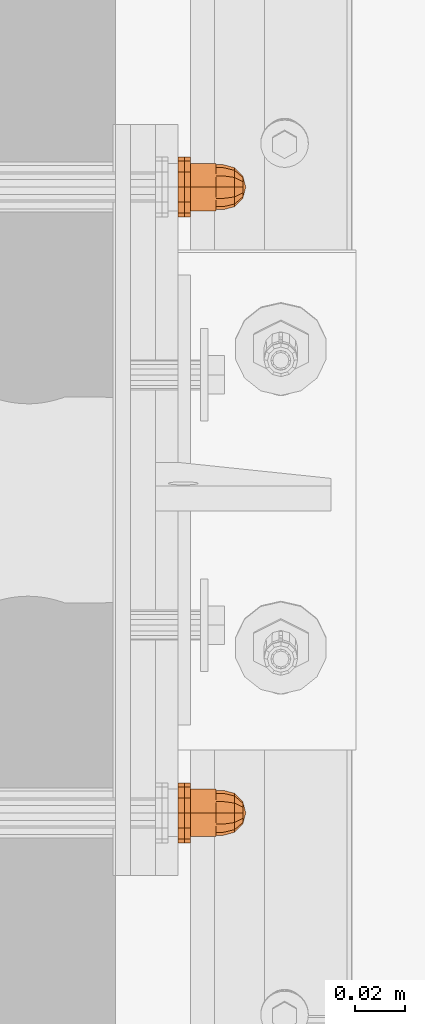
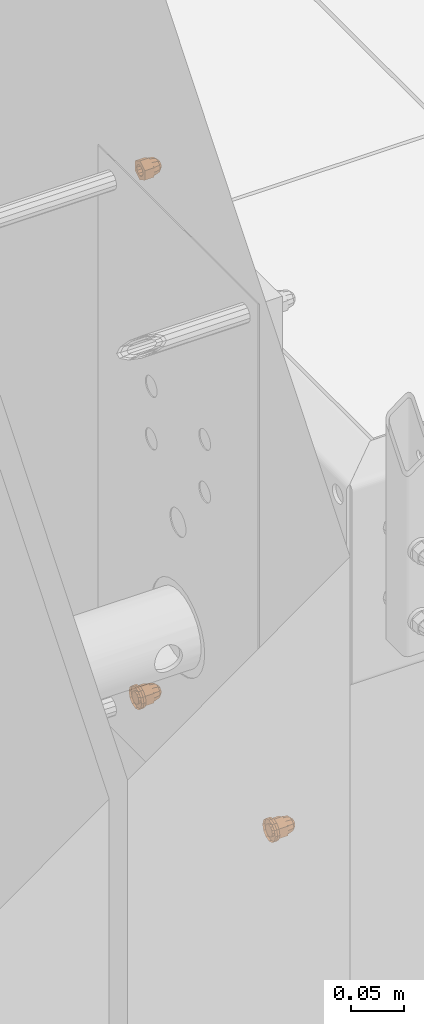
# One storey, part 115 of 162: 7 proxies.
"""IFC2X3 building model written with IfcOpenShell, lengths in millimetres."""

import ifcopenshell
import ifcopenshell.guid

model = None  # the IFC model being written
_history = None  # IfcOwnerHistory: only IFC2X3 demands one
_inside = {}  # id of a spatial element -> (the spatial element, [elements in it])
_under = {}  # id of a project, library or spatial element -> (it, [spatial elements below it])
_declared = {}  # id of a project -> (the project, [libraries it declares])
_typed = {}  # id of a type object -> (the type object, [elements of that type])
_made_of = {}  # id of a material, layer set ... -> (it, [elements and type objects made of it])


def new_model(schema):
    """Start an empty IFC model of exactly this schema.

    Asked for "IFC4X3", IfcOpenShell would pick the latest addendum, in which some entities
    have other attributes; the version numbers below select the first issue.
    IFC2X3 requires an IfcOwnerHistory on every rooted entity: one is made here for all.
    """
    global model, _history
    if schema == "IFC4X3":
        model = ifcopenshell.file(schema_version=(4, 3, 0, 0))
    else:
        model = ifcopenshell.file(schema=schema)
    _inside.clear()
    _under.clear()
    _declared.clear()
    _typed.clear()
    _made_of.clear()
    _history = None
    if model.schema == "IFC2X3":
        org = make("IfcOrganization", Name="unknown")
        user = make(
            "IfcPersonAndOrganization",
            ThePerson=make("IfcPerson", FamilyName="unknown"),
            TheOrganization=org,
        )
        app = make(
            "IfcApplication",
            ApplicationDeveloper=org,
            Version="unknown",
            ApplicationFullName="unknown",
            ApplicationIdentifier="unknown",
        )
        _history = make(
            "IfcOwnerHistory",
            OwningUser=user,
            OwningApplication=app,
            ChangeAction="ADDED",
            CreationDate=0,
        )
    return model


def make(cls, **values):
    """One entity of the class cls with the attributes given. An attribute that is None is left unset."""
    return model.create_entity(
        cls, **{name: value for name, value in values.items() if value is not None}
    )


def entity(cls, *values):
    """Any entity or typed value of the class cls, its attributes in the order of the schema. None: left unset."""
    e = model.create_entity(cls)
    for i, value in enumerate(values):
        if value is not None:
            e[i] = value
    return e


def rooted(cls, **values):
    """An entity with a GlobalId (a new one), such as an element, a storey or a relation."""
    return make(cls, GlobalId=ifcopenshell.guid.new(), OwnerHistory=_history, **values)


def si_unit(unit_type, name, prefix=None):
    """IfcSIUnit, for example si_unit("LENGTHUNIT", "METRE", prefix="MILLI")."""
    return make("IfcSIUnit", UnitType=unit_type, Prefix=prefix, Name=name)


def converted_unit(unit_type, name, factor, base, dimensions=None, offset=None):
    """IfcConversionBasedUnit, such as the inch: factor (a typed value) times the base unit."""
    return make(
        "IfcConversionBasedUnit"
        if offset is None
        else "IfcConversionBasedUnitWithOffset",
        ConversionOffset=offset,
        Dimensions=None
        if dimensions is None
        else entity("IfcDimensionalExponents", *dimensions),
        UnitType=unit_type,
        Name=name,
        ConversionFactor=make(
            "IfcMeasureWithUnit", ValueComponent=factor, UnitComponent=base
        ),
    )


def assignment(units):
    """IfcUnitAssignment: the units of a project."""
    return None if units is None else make("IfcUnitAssignment", Units=units)


def point(xyz):
    """IfcCartesianPoint."""
    return None if xyz is None else make("IfcCartesianPoint", Coordinates=xyz)


def direction(xyz):
    """IfcDirection."""
    return None if xyz is None else make("IfcDirection", DirectionRatios=xyz)


def frame(location, z_axis=None, x_axis=None):
    """IfcAxis2Placement3D, a coordinate frame: its origin and axes. An axis left out is left unset."""
    return make(
        "IfcAxis2Placement3D",
        Location=point(location),
        Axis=direction(z_axis),
        RefDirection=direction(x_axis),
    )


def origin_with_axes():
    """The frame at (0, 0, 0) with the z axis (0, 0, 1) and the x axis (1, 0, 0) written out."""
    return frame((0.0, 0.0, 0.0), z_axis=(0.0, 0.0, 1.0), x_axis=(1.0, 0.0, 0.0))


def place(relative_to, where):
    """IfcLocalPlacement: puts the frame where relative to a parent placement (None: the world)."""
    return make(
        "IfcLocalPlacement", PlacementRelTo=relative_to, RelativePlacement=where
    )


def context(
    kind, dimensions, precision=None, world=None, true_north=None, identifier=None
):
    """IfcGeometricRepresentationContext, for example the 3D "Model" context."""
    return make(
        "IfcGeometricRepresentationContext",
        ContextIdentifier=identifier,
        ContextType=kind,
        CoordinateSpaceDimension=dimensions,
        Precision=precision,
        WorldCoordinateSystem=world,
        TrueNorth=true_north,
    )


def project(units=None, contexts=None):
    """IfcProject with its units and contexts."""
    return rooted(
        "IfcProject",
        Name="project",
        RepresentationContexts=contexts,
        UnitsInContext=assignment(units),
    )


def spatial(cls, under=None, at=None, **own):
    """A site, building, storey or space (cls), placed at a placement, below another one or the project."""
    s = rooted(cls, ObjectPlacement=at, **own)
    if under is not None:
        _under.setdefault(under.id(), (under, []))[1].append(s)
    return s


def faces_of(points, faces, orient=None, outer=None):
    """IfcFace entities. A face is a list of loops; a loop is a list of indices into points, from 0.

    orient and outer hold one flag for each loop. By default every Orientation is true, the
    first loop of a face is its IfcFaceOuterBound and the others are IfcFaceBound.
    """
    made = []
    for i, loops in enumerate(faces):
        bounds = []
        for j, loop in enumerate(loops):
            is_outer = j == 0 if outer is None else outer[i][j]
            bounds.append(
                make(
                    "IfcFaceOuterBound" if is_outer else "IfcFaceBound",
                    Bound=make("IfcPolyLoop", Polygon=[points[k] for k in loop]),
                    Orientation=True if orient is None else orient[i][j],
                )
            )
        made.append(make("IfcFace", Bounds=bounds))
    return made


def faceted_brep(points, faces, orient=None, outer=None, voids=None):
    """IfcFacetedBrep: a solid bounded by flat faces; with voids (closed shells), ...WithVoids."""
    shared = [point(p) for p in points]
    hull = make("IfcClosedShell", CfsFaces=faces_of(shared, faces, orient, outer))
    if voids is None:
        return make("IfcFacetedBrep", Outer=hull)
    return make(
        "IfcFacetedBrepWithVoids",
        Outer=hull,
        Voids=[
            make(cls, CfsFaces=faces_of(shared, fs, o, b)) for cls, fs, o, b in voids
        ],
    )


def shape(context_of_items, identifier, shape_type, items):
    """IfcShapeRepresentation: the items that make up one representation, for example the "Body"."""
    return make(
        "IfcShapeRepresentation",
        ContextOfItems=context_of_items,
        RepresentationIdentifier=identifier,
        RepresentationType=shape_type,
        Items=items,
    )


def material(Name=None, Category=None):
    """IfcMaterial."""
    return make("IfcMaterial", Name=Name, Category=Category)


def made_of(thing, what):
    """Note that an element or type object is made of a material, layer set ...; save() writes the relation."""
    if what is not None:
        _made_of.setdefault(what.id(), (what, []))[1].append(thing)
    return thing


def element(
    cls,
    number,
    at=None,
    inside=None,
    cuts=None,
    type_object=None,
    material=None,
    context=None,
    identifier="Body",
    shape_type=None,
    held_by="IfcProductDefinitionShape",
    body=None,
    shapes=None,
    **own,
):
    """One element of the class cls, such as IfcWall. Its Tag is "e" and its number.

    at: its placement. inside: the storey or other place that contains it. cuts: it is an
    opening in that element (IfcRelVoidsElement). A single representation is given by context,
    identifier, shape_type and body (its items); several are given by shapes. held_by: the class
    of the entity that holds the representations. save() writes the other relations.
    """
    e = rooted(cls, Tag="e%d" % number, ObjectPlacement=at, **own)
    if body is not None:
        shapes = [shape(context, identifier, shape_type, body)]
    if shapes is not None:
        e.Representation = make(held_by, Representations=shapes)
    if inside is not None:
        _inside.setdefault(inside.id(), (inside, []))[1].append(e)
    if cuts is not None:
        rooted(
            "IfcRelVoidsElement", RelatingBuildingElement=cuts, RelatedOpeningElement=e
        )
    if type_object is not None:
        _typed.setdefault(type_object.id(), (type_object, []))[1].append(e)
    return made_of(e, material)


def aggregate(whole, parts):
    """IfcRelAggregates: a whole, such as a stair, and the parts it consists of."""
    return rooted("IfcRelAggregates", RelatingObject=whole, RelatedObjects=parts)


def save(model, path):
    """Write the relations noted so far, then the file.

    IfcRelAggregates (storeys below a building ...), IfcRelContainedInSpatialStructure (elements
    in a storey), IfcRelDefinesByType, IfcRelAssociatesMaterial and IfcRelDeclares: one each for
    every whole, place, type object, material and project.
    """
    for whole, parts in _under.values():
        aggregate(whole, parts)
    for where, things in _inside.values():
        rooted(
            "IfcRelContainedInSpatialStructure",
            RelatedElements=things,
            RelatingStructure=where,
        )
    for kind, things in _typed.values():
        rooted("IfcRelDefinesByType", RelatedObjects=things, RelatingType=kind)
    for what, things in _made_of.values():
        rooted("IfcRelAssociatesMaterial", RelatedObjects=things, RelatingMaterial=what)
    for by, libraries in _declared.values():
        rooted("IfcRelDeclares", RelatingContext=by, RelatedDefinitions=libraries)
    model.write(path)


model = new_model("IFC2X3")

# Units and contexts
model_context = context("Model", 3, precision=1e-09, world=origin_with_axes())
ifc_project = project(units=[si_unit("LENGTHUNIT", "METRE", prefix="MILLI"), si_unit("AREAUNIT", "SQUARE_METRE"), si_unit("VOLUMEUNIT", "CUBIC_METRE"), converted_unit("PLANEANGLEUNIT", "DEGREE", entity("IfcPlaneAngleMeasure", 0.01745329), si_unit("PLANEANGLEUNIT", "RADIAN"), dimensions=[0, 0, 0, 0, 0, 0, 0])], contexts=[model_context])

# Site, building, storey
site_placement = place(None, origin_with_axes())
site = spatial("IfcSite", under=ifc_project, at=site_placement, Name="Hermannstra?e 1a, 60318 Frankfurt", CompositionType="ELEMENT")
building_placement = place(site_placement, origin_with_axes())
building = spatial("IfcBuilding", under=site, at=building_placement, Name="Struktur 1", CompositionType="ELEMENT")
storey_placement = place(building_placement, origin_with_axes())
storey = spatial("IfcBuildingStorey", under=building, at=storey_placement, Name="Default Storey", CompositionType="ELEMENT", Elevation=0.0)

# Proxies
ifc_material_1 = material(Name="Kunststoff")
proxy_1_placement = place(None, origin_with_axes())
element("IfcBuildingElementProxy", 1, at=proxy_1_placement, inside=storey, material=ifc_material_1, ObjectType="-", context=model_context, shape_type="Brep", body=[
    faceted_brep([(2548.310071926, 1941.002385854, 3486.0), (2550.810071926, 1941.002385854, 3486.0), (2550.810071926, 1942.610081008, 3480.0), (2548.310071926, 1942.610081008, 3480.0), (2548.310071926, 1936.239246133, 3483.25), (2548.310071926, 1933.860081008, 3485.629165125), (2548.310071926, 1930.610081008, 3486.5), (2548.310071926, 1927.360081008, 3485.629165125), (2548.310071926, 1924.980915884, 3483.25), (2548.310071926, 1924.110081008, 3480.0), (2548.310071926, 1924.980915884, 3476.75), (2548.310071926, 1927.360081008, 3474.370834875), (2548.310071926, 1930.610081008, 3473.5), (2548.310071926, 1933.860081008, 3474.370834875), (2548.310071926, 1936.239246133, 3476.75), (2548.310071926, 1937.110081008, 3480.0), (2550.810071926, 1937.110081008, 3480.0), (2550.810071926, 1936.239246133, 3483.25), (2550.810071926, 1936.610081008, 3490.392304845), (2550.810071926, 1930.610081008, 3492.0), (2550.810071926, 1924.610081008, 3490.392304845), (2550.810071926, 1920.217776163, 3486.0), (2550.810071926, 1918.610081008, 3480.0), (2550.810071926, 1920.217776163, 3474.0), (2550.810071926, 1924.610081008, 3469.607695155), (2550.810071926, 1930.610081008, 3468.0), (2550.810071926, 1936.610081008, 3469.607695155), (2550.810071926, 1941.002385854, 3474.0), (2548.310071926, 1936.610081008, 3490.392304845), (2550.810071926, 1936.239246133, 3476.75), (2548.310071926, 1941.002385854, 3474.0), (2550.810071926, 1933.860081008, 3485.629165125), (2548.310071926, 1930.610081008, 3492.0), (2550.810071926, 1933.860081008, 3474.370834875), (2548.310071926, 1936.610081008, 3469.607695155), (2550.810071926, 1930.610081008, 3486.5), (2550.810071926, 1930.610081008, 3473.5), (2548.310071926, 1924.610081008, 3490.392304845), (2550.810071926, 1927.360081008, 3485.629165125), (2548.310071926, 1930.610081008, 3468.0), (2550.810071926, 1927.360081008, 3474.370834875), (2548.310071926, 1920.217776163, 3486.0), (2550.810071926, 1924.980915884, 3483.25), (2548.310071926, 1924.610081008, 3469.607695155), (2550.810071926, 1924.980915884, 3476.75), (2548.310071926, 1918.610081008, 3480.0), (2550.810071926, 1924.110081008, 3480.0), (2548.310071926, 1920.217776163, 3474.0)], [[[0, 1, 2, 3]], [[4, 5, 6, 7, 8, 9, 10, 11, 12, 13, 14, 15]], [[15, 16, 17, 4]], [[1, 18, 19, 20, 21, 22, 23, 24, 25, 26, 27, 2]], [[1, 0, 28, 18]], [[16, 15, 14, 29]], [[3, 2, 27, 30]], [[4, 17, 31, 5]], [[18, 28, 32, 19]], [[29, 14, 13, 33]], [[30, 27, 26, 34]], [[5, 31, 35, 6]], [[33, 13, 12, 36]], [[19, 32, 37, 20]], [[6, 35, 38, 7]], [[34, 26, 25, 39]], [[36, 12, 11, 40]], [[20, 37, 41, 21]], [[7, 38, 42, 8]], [[39, 25, 24, 43]], [[40, 11, 10, 44]], [[21, 41, 45, 22]], [[8, 42, 46, 9]], [[43, 24, 23, 47]], [[44, 10, 9, 46]], [[22, 45, 47, 23]]]),
])
ifc_material_2 = material(Name="A4")
proxy_2_placement = place(None, origin_with_axes())
element("IfcBuildingElementProxy", 2, at=proxy_2_placement, inside=storey, material=ifc_material_2, ObjectType="-", context=model_context, shape_type="Brep", body=[
    faceted_brep([(2550.810071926, 1920.217776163, 3486.0), (2553.310071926, 1920.217776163, 3486.0), (2553.310071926, 1924.610081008, 3490.392304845), (2550.810071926, 1924.610081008, 3490.392304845), (2553.310071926, 1918.610081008, 3480.0), (2553.310071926, 1920.217776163, 3474.0), (2553.310071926, 1924.610081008, 3469.607695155), (2553.310071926, 1930.610081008, 3468.0), (2553.310071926, 1936.610081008, 3469.607695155), (2553.310071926, 1941.002385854, 3474.0), (2553.310071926, 1942.610081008, 3480.0), (2553.310071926, 1941.002385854, 3486.0), (2553.310071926, 1936.610081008, 3490.392304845), (2553.310071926, 1930.610081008, 3492.0), (2553.310071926, 1930.610081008, 3486.5), (2553.310071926, 1933.860081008, 3485.629165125), (2553.310071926, 1936.239246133, 3483.25), (2553.310071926, 1937.110081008, 3480.0), (2553.310071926, 1936.239246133, 3476.75), (2553.310071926, 1933.860081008, 3474.370834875), (2553.310071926, 1930.610081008, 3473.5), (2553.310071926, 1927.360081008, 3474.370834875), (2553.310071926, 1924.980915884, 3476.75), (2553.310071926, 1924.110081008, 3480.0), (2553.310071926, 1924.980915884, 3483.25), (2553.310071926, 1927.360081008, 3485.629165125), (2550.810071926, 1924.980915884, 3483.25), (2550.810071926, 1924.110081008, 3480.0), (2550.810071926, 1924.980915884, 3476.75), (2550.810071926, 1927.360081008, 3474.370834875), (2550.810071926, 1930.610081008, 3473.5), (2550.810071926, 1933.860081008, 3474.370834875), (2550.810071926, 1936.239246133, 3476.75), (2550.810071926, 1937.110081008, 3480.0), (2550.810071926, 1936.239246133, 3483.25), (2550.810071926, 1933.860081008, 3485.629165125), (2550.810071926, 1930.610081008, 3486.5), (2550.810071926, 1927.360081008, 3485.629165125), (2550.810071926, 1918.610081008, 3480.0), (2550.810071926, 1930.610081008, 3492.0), (2550.810071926, 1920.217776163, 3474.0), (2550.810071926, 1936.610081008, 3490.392304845), (2550.810071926, 1924.610081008, 3469.607695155), (2550.810071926, 1941.002385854, 3486.0), (2550.810071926, 1930.610081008, 3468.0), (2550.810071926, 1942.610081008, 3480.0), (2550.810071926, 1936.610081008, 3469.607695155), (2550.810071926, 1941.002385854, 3474.0)], [[[0, 1, 2, 3]], [[2, 1, 4, 5, 6, 7, 8, 9, 10, 11, 12, 13], [14, 15, 16, 17, 18, 19, 20, 21, 22, 23, 24, 25]], [[26, 27, 28, 29, 30, 31, 32, 33, 34, 35, 36, 37]], [[24, 26, 37, 25]], [[1, 0, 38, 4]], [[26, 24, 23, 27]], [[25, 37, 36, 14]], [[3, 2, 13, 39]], [[4, 38, 40, 5]], [[27, 23, 22, 28]], [[14, 36, 35, 15]], [[39, 13, 12, 41]], [[5, 40, 42, 6]], [[28, 22, 21, 29]], [[15, 35, 34, 16]], [[41, 12, 11, 43]], [[33, 17, 16, 34]], [[6, 42, 44, 7]], [[29, 21, 20, 30]], [[32, 18, 17, 33]], [[43, 11, 10, 45]], [[19, 31, 30, 20]], [[18, 32, 31, 19]], [[7, 44, 46, 8]], [[45, 10, 9, 47]], [[8, 46, 47, 9]]]),
])
proxy_3_placement = place(None, origin_with_axes())
element("IfcBuildingElementProxy", 3, at=proxy_3_placement, inside=storey, material=ifc_material_2, ObjectType="-", context=model_context, shape_type="Brep", body=[
    faceted_brep([(2563.310071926, 1936.610081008, 3480.0), (2553.310071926, 1936.610081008, 3480.0), (2553.310071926, 1935.806233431, 3477.0), (2563.310071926, 1935.806233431, 3477.0), (2553.310071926, 1933.610081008, 3474.803847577), (2563.310071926, 1933.610081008, 3474.803847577), (2563.310071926, 1935.806233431, 3483.0), (2553.310071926, 1935.806233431, 3483.0), (2553.310071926, 1940.089950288, 3485.473205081), (2553.310071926, 1940.089950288, 3474.526794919), (2553.310071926, 1930.610081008, 3469.053589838), (2553.310071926, 1921.130211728, 3474.526794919), (2553.310071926, 1921.130211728, 3485.473205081), (2553.310071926, 1930.610081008, 3490.946410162), (2553.310071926, 1933.610081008, 3485.196152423), (2553.310071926, 1930.610081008, 3486.0), (2553.310071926, 1927.610081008, 3485.196152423), (2553.310071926, 1925.413928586, 3483.0), (2553.310071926, 1924.610081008, 3480.0), (2553.310071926, 1925.413928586, 3477.0), (2553.310071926, 1927.610081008, 3474.803847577), (2553.310071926, 1930.610081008, 3474.0), (2563.310071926, 1940.089950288, 3485.473205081), (2563.310071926, 1930.610081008, 3490.946410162), (2563.310071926, 1921.130211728, 3485.473205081), (2563.310071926, 1921.130211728, 3474.526794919), (2563.310071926, 1930.610081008, 3469.053589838), (2563.310071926, 1940.089950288, 3474.526794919), (2563.310071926, 1933.610081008, 3485.196152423), (2563.310071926, 1930.610081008, 3474.0), (2563.310071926, 1930.610081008, 3486.0), (2563.310071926, 1927.610081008, 3474.803847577), (2563.310071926, 1927.610081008, 3485.196152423), (2563.310071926, 1925.413928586, 3477.0), (2563.310071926, 1925.413928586, 3483.0), (2563.310071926, 1924.610081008, 3480.0)], [[[0, 1, 2, 3]], [[3, 2, 4, 5]], [[1, 0, 6, 7]], [[8, 9, 10, 11, 12, 13], [7, 14, 15, 16, 17, 18, 19, 20, 21, 4, 2, 1]], [[22, 23, 24, 25, 26, 27]], [[7, 6, 28, 14]], [[22, 27, 9, 8]], [[5, 4, 21, 29]], [[10, 9, 27, 26]], [[14, 28, 30, 15]], [[23, 22, 8, 13]], [[29, 21, 20, 31]], [[11, 10, 26, 25]], [[15, 30, 32, 16]], [[24, 23, 13, 12]], [[31, 20, 19, 33]], [[25, 24, 12, 11]], [[16, 32, 34, 17]], [[33, 19, 18, 35]], [[17, 34, 35, 18]]]),
    faceted_brep([(2566.310071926, 1930.610081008, 3489.0), (2563.310071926, 1930.610081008, 3489.0), (2563.310071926, 1926.110081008, 3487.794228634), (2566.310071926, 1926.110081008, 3487.794228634), (2566.310071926, 1935.110081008, 3487.794228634), (2563.310071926, 1935.110081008, 3487.794228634), (2566.310071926, 1935.110081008, 3472.205771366), (2566.310071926, 1938.404309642, 3475.5), (2566.310071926, 1939.610081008, 3480.0), (2566.310071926, 1938.404309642, 3484.5), (2566.310071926, 1922.815852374, 3484.5), (2566.310071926, 1921.610081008, 3480.0), (2566.310071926, 1922.815852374, 3475.5), (2566.310071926, 1926.110081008, 3472.205771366), (2566.310071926, 1930.610081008, 3471.0), (2563.310071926, 1926.110081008, 3472.205771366), (2563.310071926, 1922.815852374, 3475.5), (2563.310071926, 1921.610081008, 3480.0), (2563.310071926, 1922.815852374, 3484.5), (2563.310071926, 1938.404309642, 3484.5), (2563.310071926, 1939.610081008, 3480.0), (2563.310071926, 1938.404309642, 3475.5), (2563.310071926, 1935.110081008, 3472.205771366), (2563.310071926, 1930.610081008, 3471.0)], [[[0, 1, 2, 3]], [[1, 0, 4, 5]], [[6, 7, 8, 9, 4, 0, 3, 10, 11, 12, 13, 14]], [[15, 16, 17, 18, 2, 1, 5, 19, 20, 21, 22, 23]], [[3, 2, 18, 10]], [[5, 4, 9, 19]], [[10, 18, 17, 11]], [[19, 9, 8, 20]], [[22, 6, 14, 23]], [[7, 21, 20, 8]], [[6, 22, 21, 7]], [[11, 17, 16, 12]], [[23, 14, 13, 15]], [[12, 16, 15, 13]]]),
    faceted_brep([(2570.810071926, 1937.360081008, 3483.897114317), (2566.310071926, 1938.404309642, 3484.5), (2566.310071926, 1935.110081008, 3487.794228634), (2570.810071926, 1934.507195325, 3486.75), (2566.310071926, 1926.110081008, 3472.205771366), (2566.310071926, 1922.815852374, 3475.5), (2566.310071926, 1921.610081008, 3480.0), (2566.310071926, 1922.815852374, 3484.5), (2566.310071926, 1926.110081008, 3487.794228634), (2566.310071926, 1930.610081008, 3489.0), (2566.310071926, 1939.610081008, 3480.0), (2566.310071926, 1938.404309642, 3475.5), (2566.310071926, 1935.110081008, 3472.205771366), (2566.310071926, 1930.610081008, 3471.0), (2570.810071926, 1930.610081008, 3487.794228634), (2574.104300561, 1935.110081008, 3480.0), (2570.810071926, 1938.404309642, 3480.0), (2574.104300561, 1934.507195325, 3482.25), (2570.810071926, 1926.712966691, 3486.75), (2574.104300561, 1932.860081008, 3483.897114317), (2574.104300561, 1934.507195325, 3477.75), (2570.810071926, 1937.360081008, 3476.102885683), (2574.104300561, 1930.610081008, 3484.5), (2575.310071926, 1930.610081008, 3480.0), (2574.104300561, 1932.860081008, 3476.102885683), (2570.810071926, 1934.507195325, 3473.25), (2570.810071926, 1930.610081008, 3472.205771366), (2570.810071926, 1923.860081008, 3483.897114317), (2574.104300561, 1928.360081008, 3483.897114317), (2574.104300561, 1930.610081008, 3475.5), (2570.810071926, 1926.712966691, 3473.25), (2574.104300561, 1928.360081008, 3476.102885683), (2570.810071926, 1922.815852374, 3480.0), (2574.104300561, 1926.712966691, 3482.25), (2570.810071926, 1923.860081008, 3476.102885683), (2574.104300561, 1926.712966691, 3477.75), (2574.104300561, 1926.110081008, 3480.0)], [[[0, 1, 2, 3]], [[4, 5, 6, 7, 8, 9, 2, 1, 10, 11, 12, 13]], [[3, 2, 9, 14]], [[15, 16, 0, 17]], [[1, 0, 16, 10]], [[14, 9, 8, 18]], [[17, 0, 3, 19]], [[16, 15, 20, 21]], [[19, 3, 14, 22]], [[17, 23, 15]], [[24, 25, 21, 20]], [[15, 23, 20]], [[12, 25, 26, 13]], [[11, 21, 25, 12]], [[10, 16, 21, 11]], [[18, 8, 7, 27]], [[22, 14, 18, 28]], [[19, 23, 17]], [[29, 26, 25, 24]], [[20, 23, 24]], [[22, 23, 19]], [[13, 26, 30, 4]], [[26, 29, 31, 30]], [[24, 23, 29]], [[27, 7, 6, 32]], [[28, 18, 27, 33]], [[28, 23, 22]], [[29, 23, 31]], [[33, 23, 28]], [[4, 30, 34, 5]], [[30, 31, 35, 34]], [[31, 23, 35]], [[32, 6, 5, 34]], [[33, 27, 32, 36]], [[36, 23, 33]], [[35, 23, 36]], [[34, 35, 36, 32]]]),
])
proxy_4_placement = place(None, origin_with_axes())
element("IfcBuildingElementProxy", 4, at=proxy_4_placement, inside=storey, material=ifc_material_1, ObjectType="-", context=model_context, shape_type="Brep", body=[
    faceted_brep([(2548.310071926, 1691.002385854, 3486.0), (2550.810071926, 1691.002385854, 3486.0), (2550.810071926, 1692.610081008, 3480.0), (2548.310071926, 1692.610081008, 3480.0), (2548.310071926, 1686.239246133, 3483.25), (2548.310071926, 1683.860081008, 3485.629165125), (2548.310071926, 1680.610081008, 3486.5), (2548.310071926, 1677.360081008, 3485.629165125), (2548.310071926, 1674.980915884, 3483.25), (2548.310071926, 1674.110081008, 3480.0), (2548.310071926, 1674.980915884, 3476.75), (2548.310071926, 1677.360081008, 3474.370834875), (2548.310071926, 1680.610081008, 3473.5), (2548.310071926, 1683.860081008, 3474.370834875), (2548.310071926, 1686.239246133, 3476.75), (2548.310071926, 1687.110081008, 3480.0), (2550.810071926, 1687.110081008, 3480.0), (2550.810071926, 1686.239246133, 3483.25), (2550.810071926, 1686.610081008, 3490.392304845), (2550.810071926, 1680.610081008, 3492.0), (2550.810071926, 1674.610081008, 3490.392304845), (2550.810071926, 1670.217776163, 3486.0), (2550.810071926, 1668.610081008, 3480.0), (2550.810071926, 1670.217776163, 3474.0), (2550.810071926, 1674.610081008, 3469.607695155), (2550.810071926, 1680.610081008, 3468.0), (2550.810071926, 1686.610081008, 3469.607695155), (2550.810071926, 1691.002385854, 3474.0), (2548.310071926, 1686.610081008, 3490.392304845), (2550.810071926, 1686.239246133, 3476.75), (2548.310071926, 1691.002385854, 3474.0), (2550.810071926, 1683.860081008, 3485.629165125), (2548.310071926, 1680.610081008, 3492.0), (2550.810071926, 1683.860081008, 3474.370834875), (2548.310071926, 1686.610081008, 3469.607695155), (2550.810071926, 1680.610081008, 3486.5), (2550.810071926, 1680.610081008, 3473.5), (2548.310071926, 1674.610081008, 3490.392304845), (2550.810071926, 1677.360081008, 3485.629165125), (2548.310071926, 1680.610081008, 3468.0), (2550.810071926, 1677.360081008, 3474.370834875), (2548.310071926, 1670.217776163, 3486.0), (2550.810071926, 1674.980915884, 3483.25), (2548.310071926, 1674.610081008, 3469.607695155), (2550.810071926, 1674.980915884, 3476.75), (2548.310071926, 1668.610081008, 3480.0), (2550.810071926, 1674.110081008, 3480.0), (2548.310071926, 1670.217776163, 3474.0)], [[[0, 1, 2, 3]], [[4, 5, 6, 7, 8, 9, 10, 11, 12, 13, 14, 15]], [[15, 16, 17, 4]], [[1, 18, 19, 20, 21, 22, 23, 24, 25, 26, 27, 2]], [[1, 0, 28, 18]], [[16, 15, 14, 29]], [[3, 2, 27, 30]], [[4, 17, 31, 5]], [[18, 28, 32, 19]], [[29, 14, 13, 33]], [[30, 27, 26, 34]], [[5, 31, 35, 6]], [[33, 13, 12, 36]], [[19, 32, 37, 20]], [[6, 35, 38, 7]], [[34, 26, 25, 39]], [[36, 12, 11, 40]], [[20, 37, 41, 21]], [[7, 38, 42, 8]], [[39, 25, 24, 43]], [[40, 11, 10, 44]], [[21, 41, 45, 22]], [[8, 42, 46, 9]], [[43, 24, 23, 47]], [[44, 10, 9, 46]], [[22, 45, 47, 23]]]),
])
proxy_5_placement = place(None, origin_with_axes())
element("IfcBuildingElementProxy", 5, at=proxy_5_placement, inside=storey, material=ifc_material_2, ObjectType="-", context=model_context, shape_type="Brep", body=[
    faceted_brep([(2550.810071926, 1670.217776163, 3486.0), (2553.310071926, 1670.217776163, 3486.0), (2553.310071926, 1674.610081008, 3490.392304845), (2550.810071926, 1674.610081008, 3490.392304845), (2553.310071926, 1668.610081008, 3480.0), (2553.310071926, 1670.217776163, 3474.0), (2553.310071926, 1674.610081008, 3469.607695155), (2553.310071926, 1680.610081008, 3468.0), (2553.310071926, 1686.610081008, 3469.607695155), (2553.310071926, 1691.002385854, 3474.0), (2553.310071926, 1692.610081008, 3480.0), (2553.310071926, 1691.002385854, 3486.0), (2553.310071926, 1686.610081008, 3490.392304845), (2553.310071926, 1680.610081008, 3492.0), (2553.310071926, 1680.610081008, 3486.5), (2553.310071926, 1683.860081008, 3485.629165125), (2553.310071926, 1686.239246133, 3483.25), (2553.310071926, 1687.110081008, 3480.0), (2553.310071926, 1686.239246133, 3476.75), (2553.310071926, 1683.860081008, 3474.370834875), (2553.310071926, 1680.610081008, 3473.5), (2553.310071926, 1677.360081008, 3474.370834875), (2553.310071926, 1674.980915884, 3476.75), (2553.310071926, 1674.110081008, 3480.0), (2553.310071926, 1674.980915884, 3483.25), (2553.310071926, 1677.360081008, 3485.629165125), (2550.810071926, 1674.980915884, 3483.25), (2550.810071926, 1674.110081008, 3480.0), (2550.810071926, 1674.980915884, 3476.75), (2550.810071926, 1677.360081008, 3474.370834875), (2550.810071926, 1680.610081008, 3473.5), (2550.810071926, 1683.860081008, 3474.370834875), (2550.810071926, 1686.239246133, 3476.75), (2550.810071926, 1687.110081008, 3480.0), (2550.810071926, 1686.239246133, 3483.25), (2550.810071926, 1683.860081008, 3485.629165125), (2550.810071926, 1680.610081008, 3486.5), (2550.810071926, 1677.360081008, 3485.629165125), (2550.810071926, 1668.610081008, 3480.0), (2550.810071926, 1680.610081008, 3492.0), (2550.810071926, 1670.217776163, 3474.0), (2550.810071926, 1686.610081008, 3490.392304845), (2550.810071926, 1674.610081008, 3469.607695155), (2550.810071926, 1691.002385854, 3486.0), (2550.810071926, 1680.610081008, 3468.0), (2550.810071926, 1692.610081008, 3480.0), (2550.810071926, 1686.610081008, 3469.607695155), (2550.810071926, 1691.002385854, 3474.0)], [[[0, 1, 2, 3]], [[2, 1, 4, 5, 6, 7, 8, 9, 10, 11, 12, 13], [14, 15, 16, 17, 18, 19, 20, 21, 22, 23, 24, 25]], [[26, 27, 28, 29, 30, 31, 32, 33, 34, 35, 36, 37]], [[24, 26, 37, 25]], [[1, 0, 38, 4]], [[26, 24, 23, 27]], [[25, 37, 36, 14]], [[3, 2, 13, 39]], [[4, 38, 40, 5]], [[27, 23, 22, 28]], [[14, 36, 35, 15]], [[39, 13, 12, 41]], [[5, 40, 42, 6]], [[28, 22, 21, 29]], [[15, 35, 34, 16]], [[41, 12, 11, 43]], [[33, 17, 16, 34]], [[6, 42, 44, 7]], [[29, 21, 20, 30]], [[32, 18, 17, 33]], [[43, 11, 10, 45]], [[19, 31, 30, 20]], [[18, 32, 31, 19]], [[7, 44, 46, 8]], [[45, 10, 9, 47]], [[8, 46, 47, 9]]]),
])
proxy_6_placement = place(None, origin_with_axes())
element("IfcBuildingElementProxy", 6, at=proxy_6_placement, inside=storey, material=ifc_material_2, ObjectType="-", context=model_context, shape_type="Brep", body=[
    faceted_brep([(2563.310071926, 1686.610081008, 3480.0), (2553.310071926, 1686.610081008, 3480.0), (2553.310071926, 1685.806233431, 3477.0), (2563.310071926, 1685.806233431, 3477.0), (2553.310071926, 1683.610081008, 3474.803847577), (2563.310071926, 1683.610081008, 3474.803847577), (2563.310071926, 1685.806233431, 3483.0), (2553.310071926, 1685.806233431, 3483.0), (2553.310071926, 1690.089950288, 3485.473205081), (2553.310071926, 1690.089950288, 3474.526794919), (2553.310071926, 1680.610081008, 3469.053589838), (2553.310071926, 1671.130211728, 3474.526794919), (2553.310071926, 1671.130211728, 3485.473205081), (2553.310071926, 1680.610081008, 3490.946410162), (2553.310071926, 1683.610081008, 3485.196152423), (2553.310071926, 1680.610081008, 3486.0), (2553.310071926, 1677.610081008, 3485.196152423), (2553.310071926, 1675.413928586, 3483.0), (2553.310071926, 1674.610081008, 3480.0), (2553.310071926, 1675.413928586, 3477.0), (2553.310071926, 1677.610081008, 3474.803847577), (2553.310071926, 1680.610081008, 3474.0), (2563.310071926, 1690.089950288, 3485.473205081), (2563.310071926, 1680.610081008, 3490.946410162), (2563.310071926, 1671.130211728, 3485.473205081), (2563.310071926, 1671.130211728, 3474.526794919), (2563.310071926, 1680.610081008, 3469.053589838), (2563.310071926, 1690.089950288, 3474.526794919), (2563.310071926, 1683.610081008, 3485.196152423), (2563.310071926, 1680.610081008, 3474.0), (2563.310071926, 1680.610081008, 3486.0), (2563.310071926, 1677.610081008, 3474.803847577), (2563.310071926, 1677.610081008, 3485.196152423), (2563.310071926, 1675.413928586, 3477.0), (2563.310071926, 1675.413928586, 3483.0), (2563.310071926, 1674.610081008, 3480.0)], [[[0, 1, 2, 3]], [[3, 2, 4, 5]], [[1, 0, 6, 7]], [[8, 9, 10, 11, 12, 13], [7, 14, 15, 16, 17, 18, 19, 20, 21, 4, 2, 1]], [[22, 23, 24, 25, 26, 27]], [[7, 6, 28, 14]], [[22, 27, 9, 8]], [[5, 4, 21, 29]], [[10, 9, 27, 26]], [[14, 28, 30, 15]], [[23, 22, 8, 13]], [[29, 21, 20, 31]], [[11, 10, 26, 25]], [[15, 30, 32, 16]], [[24, 23, 13, 12]], [[31, 20, 19, 33]], [[25, 24, 12, 11]], [[16, 32, 34, 17]], [[33, 19, 18, 35]], [[17, 34, 35, 18]]]),
    faceted_brep([(2566.310071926, 1680.610081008, 3489.0), (2563.310071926, 1680.610081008, 3489.0), (2563.310071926, 1676.110081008, 3487.794228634), (2566.310071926, 1676.110081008, 3487.794228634), (2566.310071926, 1685.110081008, 3487.794228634), (2563.310071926, 1685.110081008, 3487.794228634), (2566.310071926, 1685.110081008, 3472.205771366), (2566.310071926, 1688.404309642, 3475.5), (2566.310071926, 1689.610081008, 3480.0), (2566.310071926, 1688.404309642, 3484.5), (2566.310071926, 1672.815852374, 3484.5), (2566.310071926, 1671.610081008, 3480.0), (2566.310071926, 1672.815852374, 3475.5), (2566.310071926, 1676.110081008, 3472.205771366), (2566.310071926, 1680.610081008, 3471.0), (2563.310071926, 1676.110081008, 3472.205771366), (2563.310071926, 1672.815852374, 3475.5), (2563.310071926, 1671.610081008, 3480.0), (2563.310071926, 1672.815852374, 3484.5), (2563.310071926, 1688.404309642, 3484.5), (2563.310071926, 1689.610081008, 3480.0), (2563.310071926, 1688.404309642, 3475.5), (2563.310071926, 1685.110081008, 3472.205771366), (2563.310071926, 1680.610081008, 3471.0)], [[[0, 1, 2, 3]], [[1, 0, 4, 5]], [[6, 7, 8, 9, 4, 0, 3, 10, 11, 12, 13, 14]], [[15, 16, 17, 18, 2, 1, 5, 19, 20, 21, 22, 23]], [[3, 2, 18, 10]], [[5, 4, 9, 19]], [[10, 18, 17, 11]], [[19, 9, 8, 20]], [[22, 6, 14, 23]], [[7, 21, 20, 8]], [[6, 22, 21, 7]], [[11, 17, 16, 12]], [[23, 14, 13, 15]], [[12, 16, 15, 13]]]),
    faceted_brep([(2570.810071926, 1687.360081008, 3483.897114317), (2566.310071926, 1688.404309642, 3484.5), (2566.310071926, 1685.110081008, 3487.794228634), (2570.810071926, 1684.507195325, 3486.75), (2566.310071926, 1676.110081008, 3472.205771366), (2566.310071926, 1672.815852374, 3475.5), (2566.310071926, 1671.610081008, 3480.0), (2566.310071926, 1672.815852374, 3484.5), (2566.310071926, 1676.110081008, 3487.794228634), (2566.310071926, 1680.610081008, 3489.0), (2566.310071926, 1689.610081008, 3480.0), (2566.310071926, 1688.404309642, 3475.5), (2566.310071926, 1685.110081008, 3472.205771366), (2566.310071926, 1680.610081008, 3471.0), (2570.810071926, 1680.610081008, 3487.794228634), (2574.104300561, 1685.110081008, 3480.0), (2570.810071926, 1688.404309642, 3480.0), (2574.104300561, 1684.507195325, 3482.25), (2570.810071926, 1676.712966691, 3486.75), (2574.104300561, 1682.860081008, 3483.897114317), (2574.104300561, 1684.507195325, 3477.75), (2570.810071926, 1687.360081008, 3476.102885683), (2574.104300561, 1680.610081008, 3484.5), (2575.310071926, 1680.610081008, 3480.0), (2574.104300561, 1682.860081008, 3476.102885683), (2570.810071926, 1684.507195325, 3473.25), (2570.810071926, 1680.610081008, 3472.205771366), (2570.810071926, 1673.860081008, 3483.897114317), (2574.104300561, 1678.360081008, 3483.897114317), (2574.104300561, 1680.610081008, 3475.5), (2570.810071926, 1676.712966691, 3473.25), (2574.104300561, 1678.360081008, 3476.102885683), (2570.810071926, 1672.815852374, 3480.0), (2574.104300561, 1676.712966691, 3482.25), (2570.810071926, 1673.860081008, 3476.102885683), (2574.104300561, 1676.712966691, 3477.75), (2574.104300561, 1676.110081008, 3480.0)], [[[0, 1, 2, 3]], [[4, 5, 6, 7, 8, 9, 2, 1, 10, 11, 12, 13]], [[3, 2, 9, 14]], [[15, 16, 0, 17]], [[1, 0, 16, 10]], [[14, 9, 8, 18]], [[17, 0, 3, 19]], [[16, 15, 20, 21]], [[19, 3, 14, 22]], [[17, 23, 15]], [[24, 25, 21, 20]], [[15, 23, 20]], [[12, 25, 26, 13]], [[11, 21, 25, 12]], [[10, 16, 21, 11]], [[18, 8, 7, 27]], [[22, 14, 18, 28]], [[19, 23, 17]], [[29, 26, 25, 24]], [[20, 23, 24]], [[22, 23, 19]], [[13, 26, 30, 4]], [[26, 29, 31, 30]], [[24, 23, 29]], [[27, 7, 6, 32]], [[28, 18, 27, 33]], [[28, 23, 22]], [[29, 23, 31]], [[33, 23, 28]], [[4, 30, 34, 5]], [[30, 31, 35, 34]], [[31, 23, 35]], [[32, 6, 5, 34]], [[33, 27, 32, 36]], [[36, 23, 33]], [[35, 23, 36]], [[34, 35, 36, 32]]]),
])
proxy_7_placement = place(None, origin_with_axes())
element("IfcBuildingElementProxy", 7, at=proxy_7_placement, inside=storey, material=ifc_material_2, ObjectType="-", context=model_context, shape_type="Brep", body=[
    faceted_brep([(2553.310071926, 1936.610081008, 4080.0), (2563.310071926, 1936.610081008, 4080.0), (2563.310071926, 1935.806233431, 4083.0), (2553.310071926, 1935.806233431, 4083.0), (2563.310071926, 1933.610081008, 4085.196152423), (2553.310071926, 1933.610081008, 4085.196152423), (2553.310071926, 1935.806233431, 4077.0), (2563.310071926, 1935.806233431, 4077.0), (2553.310071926, 1940.089950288, 4074.526794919), (2553.310071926, 1930.610081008, 4069.053589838), (2553.310071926, 1921.130211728, 4074.526794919), (2553.310071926, 1921.130211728, 4085.473205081), (2553.310071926, 1930.610081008, 4090.946410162), (2553.310071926, 1940.089950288, 4085.473205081), (2553.310071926, 1933.610081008, 4074.803847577), (2553.310071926, 1930.610081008, 4086.0), (2553.310071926, 1927.610081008, 4085.196152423), (2553.310071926, 1925.413928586, 4083.0), (2553.310071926, 1924.610081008, 4080.0), (2553.310071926, 1925.413928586, 4077.0), (2553.310071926, 1927.610081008, 4074.803847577), (2553.310071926, 1930.610081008, 4074.0), (2563.310071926, 1930.610081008, 4069.053589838), (2563.310071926, 1940.089950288, 4074.526794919), (2563.310071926, 1940.089950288, 4085.473205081), (2563.310071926, 1930.610081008, 4090.946410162), (2563.310071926, 1921.130211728, 4085.473205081), (2563.310071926, 1921.130211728, 4074.526794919), (2563.310071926, 1933.610081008, 4074.803847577), (2563.310071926, 1930.610081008, 4074.0), (2563.310071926, 1927.610081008, 4074.803847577), (2563.310071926, 1925.413928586, 4077.0), (2563.310071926, 1924.610081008, 4080.0), (2563.310071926, 1925.413928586, 4083.0), (2563.310071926, 1927.610081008, 4085.196152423), (2563.310071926, 1930.610081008, 4086.0)], [[[0, 1, 2, 3]], [[3, 2, 4, 5]], [[1, 0, 6, 7]], [[8, 9, 10, 11, 12, 13], [14, 6, 0, 3, 5, 15, 16, 17, 18, 19, 20, 21]], [[22, 23, 24, 25, 26, 27], [1, 7, 28, 29, 30, 31, 32, 33, 34, 35, 4, 2]], [[7, 6, 14, 28]], [[24, 23, 8, 13]], [[5, 4, 35, 15]], [[13, 12, 25, 24]], [[28, 14, 21, 29]], [[23, 22, 9, 8]], [[15, 35, 34, 16]], [[12, 11, 26, 25]], [[29, 21, 20, 30]], [[22, 27, 10, 9]], [[16, 34, 33, 17]], [[27, 26, 11, 10]], [[30, 20, 19, 31]], [[17, 33, 32, 18]], [[31, 19, 18, 32]]]),
    faceted_brep([(2563.310071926, 1930.610081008, 4071.0), (2566.310071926, 1930.610081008, 4071.0), (2566.310071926, 1926.110081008, 4072.205771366), (2563.310071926, 1926.110081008, 4072.205771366), (2563.310071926, 1935.110081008, 4072.205771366), (2566.310071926, 1935.110081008, 4072.205771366), (2566.310071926, 1938.404309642, 4084.5), (2566.310071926, 1935.110081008, 4087.794228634), (2566.310071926, 1930.610081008, 4089.0), (2566.310071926, 1926.110081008, 4087.794228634), (2566.310071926, 1922.815852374, 4084.5), (2566.310071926, 1921.610081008, 4080.0), (2566.310071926, 1922.815852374, 4075.5), (2566.310071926, 1938.404309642, 4075.5), (2566.310071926, 1939.610081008, 4080.0), (2563.310071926, 1922.815852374, 4084.5), (2563.310071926, 1926.110081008, 4087.794228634), (2563.310071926, 1930.610081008, 4089.0), (2563.310071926, 1935.110081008, 4087.794228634), (2563.310071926, 1938.404309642, 4084.5), (2563.310071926, 1939.610081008, 4080.0), (2563.310071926, 1938.404309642, 4075.5), (2563.310071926, 1922.815852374, 4075.5), (2563.310071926, 1921.610081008, 4080.0)], [[[0, 1, 2, 3]], [[1, 0, 4, 5]], [[6, 7, 8, 9, 10, 11, 12, 2, 1, 5, 13, 14]], [[15, 16, 17, 18, 19, 20, 21, 4, 0, 3, 22, 23]], [[3, 2, 12, 22]], [[5, 4, 21, 13]], [[22, 12, 11, 23]], [[13, 21, 20, 14]], [[7, 18, 17, 8]], [[19, 6, 14, 20]], [[18, 7, 6, 19]], [[23, 11, 10, 15]], [[8, 17, 16, 9]], [[15, 10, 9, 16]]]),
    faceted_brep([(2566.310071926, 1938.404309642, 4075.5), (2570.810071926, 1937.360081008, 4076.102885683), (2570.810071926, 1934.507195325, 4073.25), (2566.310071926, 1935.110081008, 4072.205771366), (2566.310071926, 1922.815852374, 4084.5), (2566.310071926, 1926.110081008, 4087.794228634), (2566.310071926, 1930.610081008, 4089.0), (2566.310071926, 1935.110081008, 4087.794228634), (2566.310071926, 1938.404309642, 4084.5), (2566.310071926, 1939.610081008, 4080.0), (2566.310071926, 1930.610081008, 4071.0), (2566.310071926, 1926.110081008, 4072.205771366), (2566.310071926, 1922.815852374, 4075.5), (2566.310071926, 1921.610081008, 4080.0), (2570.810071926, 1930.610081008, 4072.205771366), (2570.810071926, 1938.404309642, 4080.0), (2574.104300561, 1935.110081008, 4080.0), (2574.104300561, 1934.507195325, 4077.75), (2570.810071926, 1926.712966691, 4073.25), (2574.104300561, 1932.860081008, 4076.102885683), (2570.810071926, 1937.360081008, 4083.897114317), (2574.104300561, 1934.507195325, 4082.25), (2574.104300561, 1930.610081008, 4075.5), (2575.310071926, 1930.610081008, 4080.0), (2570.810071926, 1934.507195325, 4086.75), (2574.104300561, 1932.860081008, 4083.897114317), (2570.810071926, 1930.610081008, 4087.794228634), (2570.810071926, 1923.860081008, 4076.102885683), (2574.104300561, 1928.360081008, 4076.102885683), (2574.104300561, 1930.610081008, 4084.5), (2570.810071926, 1926.712966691, 4086.75), (2574.104300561, 1928.360081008, 4083.897114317), (2570.810071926, 1922.815852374, 4080.0), (2574.104300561, 1926.712966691, 4077.75), (2570.810071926, 1923.860081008, 4083.897114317), (2574.104300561, 1926.712966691, 4082.25), (2574.104300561, 1926.110081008, 4080.0)], [[[0, 1, 2, 3]], [[4, 5, 6, 7, 8, 9, 0, 3, 10, 11, 12, 13]], [[3, 2, 14, 10]], [[15, 16, 17, 1]], [[1, 0, 9, 15]], [[10, 14, 18, 11]], [[1, 17, 19, 2]], [[16, 15, 20, 21]], [[2, 19, 22, 14]], [[23, 17, 16]], [[24, 25, 21, 20]], [[23, 16, 21]], [[24, 7, 6, 26]], [[20, 8, 7, 24]], [[15, 9, 8, 20]], [[11, 18, 27, 12]], [[14, 22, 28, 18]], [[23, 19, 17]], [[26, 29, 25, 24]], [[23, 21, 25]], [[23, 22, 19]], [[26, 6, 5, 30]], [[29, 26, 30, 31]], [[23, 25, 29]], [[12, 27, 32, 13]], [[18, 28, 33, 27]], [[23, 28, 22]], [[23, 29, 31]], [[23, 33, 28]], [[30, 5, 4, 34]], [[31, 30, 34, 35]], [[23, 31, 35]], [[13, 32, 34, 4]], [[27, 33, 36, 32]], [[23, 36, 33]], [[23, 35, 36]], [[35, 34, 32, 36]]]),
])

save(model, "model.ifc")
